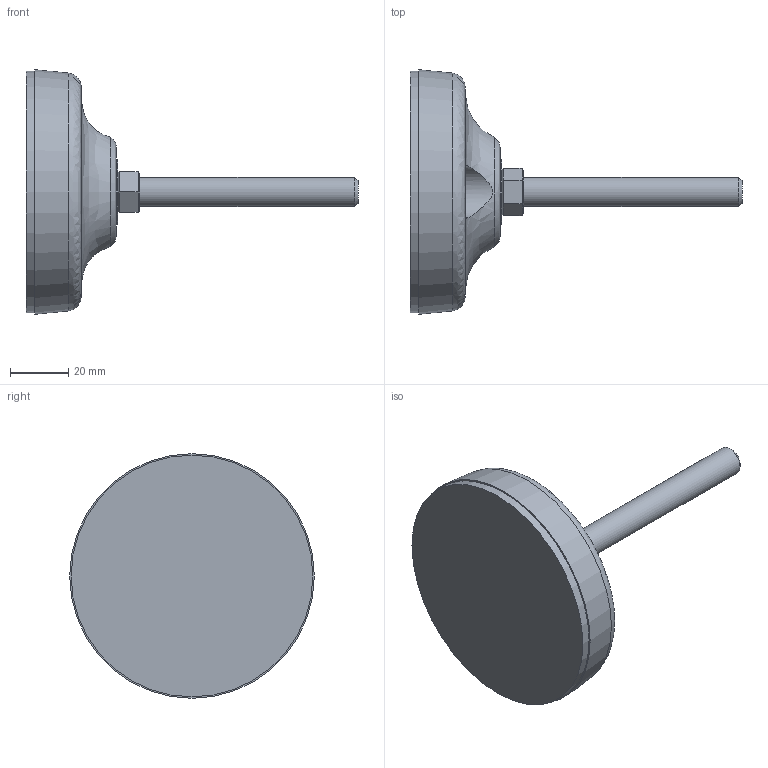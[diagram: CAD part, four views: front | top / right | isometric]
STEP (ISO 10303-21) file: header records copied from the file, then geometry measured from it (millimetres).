
FILE_DESCRIPTION(('STEP AP203'),'2;1');
FILE_NAME('12633-10.stp','2014-06-24T17:21:37',(''),(''),'2008.1.107','THINKDESIGN','');
FILE_SCHEMA(('CONFIG_CONTROL_DESIGN'));
Length unit declared in the file: millimetre
Bounding box: 114 x 84 x 84 mm (x, y, z)
Volume: 125808.6 mm3; surface area: 30038.7 mm2
Topology: 4 solids, 4 shells, 38 faces, 81 edges, 53 vertices
Faces by surface type: bspline 17, plane 16, cylinder 5
Full cylindrical faces by diameter (mm): 10 x1, 22 x1, 83 x1
Entity records: 1501 total; most frequent: CARTESIAN_POINT 615, ORIENTED_EDGE 162, DIRECTION 151, EDGE_CURVE 81, VERTEX_POINT 53, AXIS2_PLACEMENT_3D 52, VECTOR 47, LINE 47
